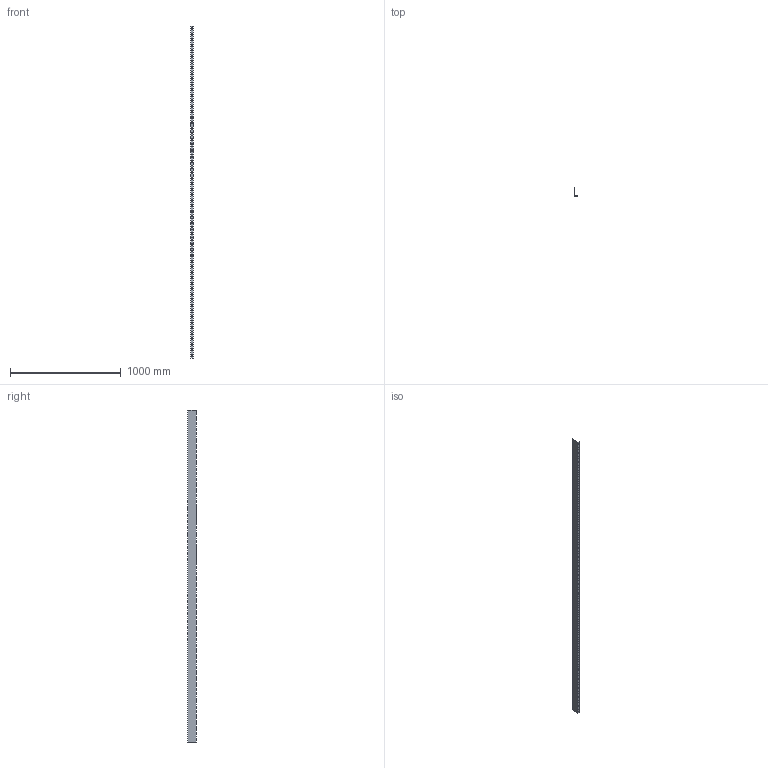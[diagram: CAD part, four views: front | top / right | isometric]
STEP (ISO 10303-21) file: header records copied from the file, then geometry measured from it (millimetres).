
FILE_DESCRIPTION (( 'STEP AP214' ), '1' );
FILE_NAME ('SE_7308.step', '2025-07-16T09:28:57', ( '' ), ( '' ), 'SwSTEP 2.0', 'SolidWorks 2023', '' );
FILE_SCHEMA (( 'AUTOMOTIVE_DESIGN' ));
Length unit declared in the file: millimetre
Products named in the file (1): SE_7308
Bounding box: 23 x 73 x 3000 mm (x, y, z)
Volume: 166680 mm3; surface area: 561258.5 mm2
Topology: 1 solids, 1 shells, 248 faces, 738 edges, 492 vertices
Faces by surface type: plane 248
Entity records: 8405 total; most frequent: CARTESIAN_POINT 1479, ORIENTED_EDGE 1476, DIRECTION 1236, EDGE_CURVE 738, VECTOR 738, LINE 738, VERTEX_POINT 492, EDGE_LOOP 368
